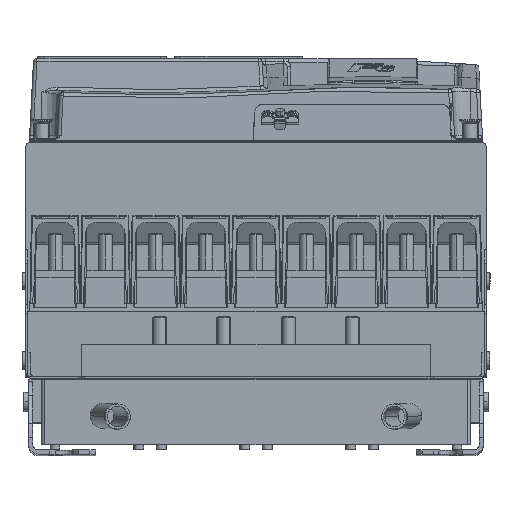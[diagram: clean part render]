
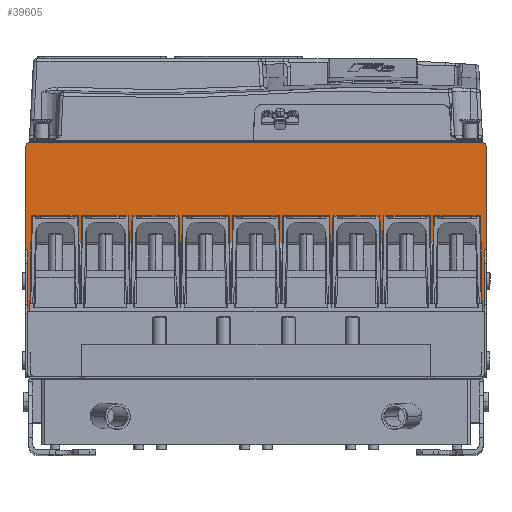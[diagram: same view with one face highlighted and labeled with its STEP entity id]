
A CAD part, top view. The second image highlights one B-rep face of the part: STEP entity #39605.
In plain terms, the highlighted planar face has unit normal (0, 0, 1).
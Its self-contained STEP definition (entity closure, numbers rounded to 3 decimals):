
#751 = VERTEX_POINT ( 'NONE', #75236 ) ;
#1820 = EDGE_CURVE ( 'NONE', #33600, #751, #91454, .T. ) ;
#2166 = CARTESIAN_POINT ( 'NONE',  ( 0., 0., 453. ) ) ;
#3825 = CARTESIAN_POINT ( 'NONE',  ( -163.5, 0., 453. ) ) ;
#3896 = EDGE_CURVE ( 'NONE', #74906, #26036, #9055, .T. ) ;
#9055 = LINE ( 'NONE', #51866, #48027 ) ;
#9665 = VERTEX_POINT ( 'NONE', #9853 ) ;
#9853 = CARTESIAN_POINT ( 'NONE',  ( -163.5, -77., 453. ) ) ;
#11878 = CARTESIAN_POINT ( 'NONE',  ( -163.5, -167.9, 453. ) ) ;
#12316 = EDGE_CURVE ( 'NONE', #751, #9665, #77346, .T. ) ;
#13647 = LINE ( 'NONE', #48429, #78020 ) ;
#14762 = DIRECTION ( 'NONE',  ( 0., -1., 0. ) ) ;
#15945 = CARTESIAN_POINT ( 'NONE',  ( 163.5, -167.9, 453. ) ) ;
#16178 = EDGE_LOOP ( 'NONE', ( #50398, #65591, #109472, #57537, #19974, #107094, #84316, #61532, #51595, #112509 ) ) ;
#16943 = DIRECTION ( 'NONE',  ( 1., 0., 0. ) ) ;
#18109 = DIRECTION ( 'NONE',  ( 0., 0., -1. ) ) ;
#19838 = VECTOR ( 'NONE', #99941, 1000. ) ;
#19974 = ORIENTED_EDGE ( 'NONE', *, *, #39242, .F. ) ;
#23006 = VERTEX_POINT ( 'NONE', #15945 ) ;
#25166 = CARTESIAN_POINT ( 'NONE',  ( 161.5, 0., 453. ) ) ;
#26036 = VERTEX_POINT ( 'NONE', #81611 ) ;
#27369 = LINE ( 'NONE', #89445, #99117 ) ;
#29106 = VERTEX_POINT ( 'NONE', #11878 ) ;
#30473 = CARTESIAN_POINT ( 'NONE',  ( 0., 0., 453. ) ) ;
#31780 = DIRECTION ( 'NONE',  ( 0., 1., 0. ) ) ;
#33600 = VERTEX_POINT ( 'NONE', #77616 ) ;
#36922 = FACE_OUTER_BOUND ( 'NONE', #16178, .T. ) ;
#38245 = VERTEX_POINT ( 'NONE', #25166 ) ;
#39242 = EDGE_CURVE ( 'NONE', #23006, #29106, #27369, .T. ) ;
#39443 = VECTOR ( 'NONE', #31780, 1000. ) ;
#39605 = ADVANCED_FACE ( 'NONE', ( #36922 ), #51824, .F. ) ;
#41906 = VECTOR ( 'NONE', #16943, 1000. ) ;
#42376 = VECTOR ( 'NONE', #83001, 1000. ) ;
#43188 = EDGE_CURVE ( 'NONE', #55505, #38245, #98235, .T. ) ;
#48027 = VECTOR ( 'NONE', #88797, 1000. ) ;
#48177 = CARTESIAN_POINT ( 'NONE',  ( -165., -3.5, 453. ) ) ;
#48429 = CARTESIAN_POINT ( 'NONE',  ( 163.5, 0., 453. ) ) ;
#49052 = EDGE_CURVE ( 'NONE', #26036, #23006, #13647, .T. ) ;
#50398 = ORIENTED_EDGE ( 'NONE', *, *, #89394, .F. ) ;
#51595 = ORIENTED_EDGE ( 'NONE', *, *, #62451, .F. ) ;
#51824 = PLANE ( 'NONE',  #82831 ) ;
#51866 = CARTESIAN_POINT ( 'NONE',  ( 165.001, -77., 453. ) ) ;
#54187 = DIRECTION ( 'NONE',  ( -1., 0., 0. ) ) ;
#55108 = EDGE_CURVE ( 'NONE', #29106, #9665, #100056, .T. ) ;
#55505 = VERTEX_POINT ( 'NONE', #107902 ) ;
#55513 = VERTEX_POINT ( 'NONE', #72642 ) ;
#56124 = CARTESIAN_POINT ( 'NONE',  ( 165., -77., 453. ) ) ;
#57537 = ORIENTED_EDGE ( 'NONE', *, *, #55108, .F. ) ;
#61532 = ORIENTED_EDGE ( 'NONE', *, *, #61768, .T. ) ;
#61768 = EDGE_CURVE ( 'NONE', #74906, #55513, #109784, .T. ) ;
#62451 = EDGE_CURVE ( 'NONE', #38245, #55513, #112402, .T. ) ;
#63686 = CIRCLE ( 'NONE', #94561, 3.5 ) ;
#65591 = ORIENTED_EDGE ( 'NONE', *, *, #1820, .T. ) ;
#66021 = DIRECTION ( 'NONE',  ( 0., 0., -1. ) ) ;
#66068 = CARTESIAN_POINT ( 'NONE',  ( 165., -3.5, 453. ) ) ;
#68831 = AXIS2_PLACEMENT_3D ( 'NONE', #109501, #84470, #108955 ) ;
#72642 = CARTESIAN_POINT ( 'NONE',  ( 165., -3.5, 453. ) ) ;
#74906 = VERTEX_POINT ( 'NONE', #56124 ) ;
#75236 = CARTESIAN_POINT ( 'NONE',  ( -165., -77., 453. ) ) ;
#77346 = LINE ( 'NONE', #104072, #41906 ) ;
#77616 = CARTESIAN_POINT ( 'NONE',  ( -165., -3.5, 453. ) ) ;
#78020 = VECTOR ( 'NONE', #14762, 1000. ) ;
#81611 = CARTESIAN_POINT ( 'NONE',  ( 163.5, -77., 453. ) ) ;
#82831 = AXIS2_PLACEMENT_3D ( 'NONE', #2166, #18109, #105232 ) ;
#82888 = DIRECTION ( 'NONE',  ( 0., -1., 0. ) ) ;
#83001 = DIRECTION ( 'NONE',  ( 0., 1., 0. ) ) ;
#84316 = ORIENTED_EDGE ( 'NONE', *, *, #3896, .F. ) ;
#84470 = DIRECTION ( 'NONE',  ( 0., 0., -1. ) ) ;
#88797 = DIRECTION ( 'NONE',  ( -1., 0., 0. ) ) ;
#89394 = EDGE_CURVE ( 'NONE', #33600, #55505, #63686, .T. ) ;
#89445 = CARTESIAN_POINT ( 'NONE',  ( 0., -167.9, 453. ) ) ;
#91454 = LINE ( 'NONE', #48177, #107760 ) ;
#92694 = DIRECTION ( 'NONE',  ( 0., 1., 0. ) ) ;
#94561 = AXIS2_PLACEMENT_3D ( 'NONE', #109182, #66021, #92694 ) ;
#98235 = LINE ( 'NONE', #30473, #19838 ) ;
#99117 = VECTOR ( 'NONE', #54187, 1000. ) ;
#99941 = DIRECTION ( 'NONE',  ( 1., 0., 0. ) ) ;
#100056 = LINE ( 'NONE', #3825, #42376 ) ;
#104072 = CARTESIAN_POINT ( 'NONE',  ( -165.001, -77., 453. ) ) ;
#105232 = DIRECTION ( 'NONE',  ( 0., 1., 0. ) ) ;
#107094 = ORIENTED_EDGE ( 'NONE', *, *, #49052, .F. ) ;
#107760 = VECTOR ( 'NONE', #82888, 1000. ) ;
#107902 = CARTESIAN_POINT ( 'NONE',  ( -161.5, 0., 453. ) ) ;
#108955 = DIRECTION ( 'NONE',  ( 0., 1., 0. ) ) ;
#109182 = CARTESIAN_POINT ( 'NONE',  ( -161.5, -3.5, 453. ) ) ;
#109472 = ORIENTED_EDGE ( 'NONE', *, *, #12316, .T. ) ;
#109501 = CARTESIAN_POINT ( 'NONE',  ( 161.5, -3.5, 453. ) ) ;
#109784 = LINE ( 'NONE', #66068, #39443 ) ;
#112402 = CIRCLE ( 'NONE', #68831, 3.5 ) ;
#112509 = ORIENTED_EDGE ( 'NONE', *, *, #43188, .F. ) ;
